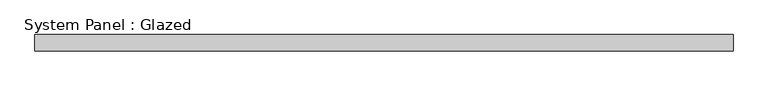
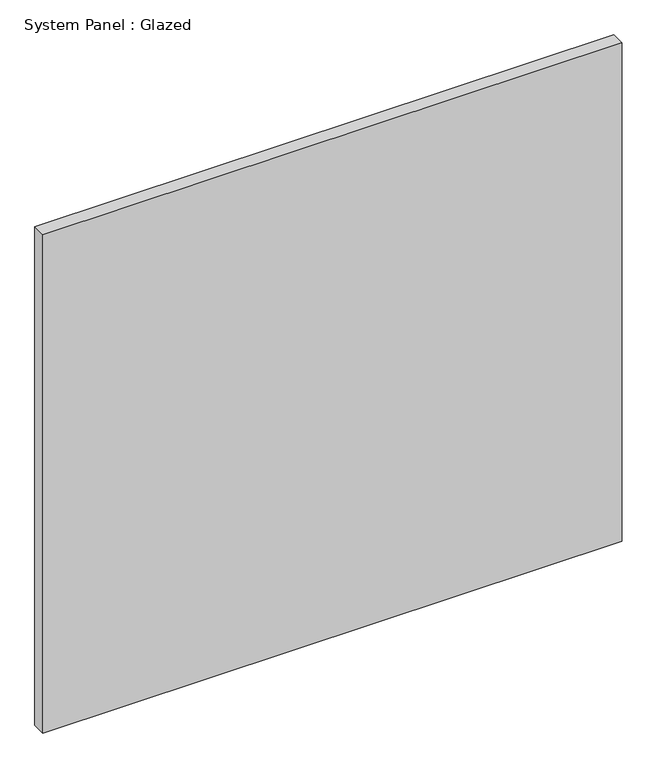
"""IFC4 building model written with IfcOpenShell, lengths in millimetres: plate geometry, System Panel : Glazed."""

from ifc_helpers import new_model, si_unit, origin, origin_with_axes, place, context, project, spatial, polyline, outline, extrude, source, transform, mapped, element, save


def system_panel_glazed_2d096eb3(model_context):
    return source(origin(), model_context, "Body", "SweptSolid", [
        extrude(outline(polyline([(538.48, 19.05), (-538.48, 19.05), (-538.48, 44.45), (538.48, 44.45), (538.48, 19.05)])), origin_with_axes(), (0.0, 0.0, 1.0), 979.723638),
    ])


if __name__ == "__main__":
    model = new_model("IFC4")
    model_context = context("Model", 3, world=origin())
    ifc_project = project(units=[si_unit("LENGTHUNIT", "METRE", prefix="MILLI")], contexts=[model_context])
    site = spatial("IfcSite", under=ifc_project)
    building = spatial("IfcBuilding", under=site)
    placement = place(None, origin())
    system_panel_glazed_shape = system_panel_glazed_2d096eb3(model_context)
    element("IfcPlate", 1, ObjectType="System Panel : Glazed", at=placement, inside=building, context=model_context, shape_type="MappedRepresentation", body=[
        mapped(system_panel_glazed_shape, transform((0.0, 0.0, 0.0), x_axis=(1.0, 0.0, 0.0), y_axis=(0.0, 1.0, 0.0), z_axis=(0.0, 0.0, 1.0))),
    ])
    save(model, "model.ifc")
